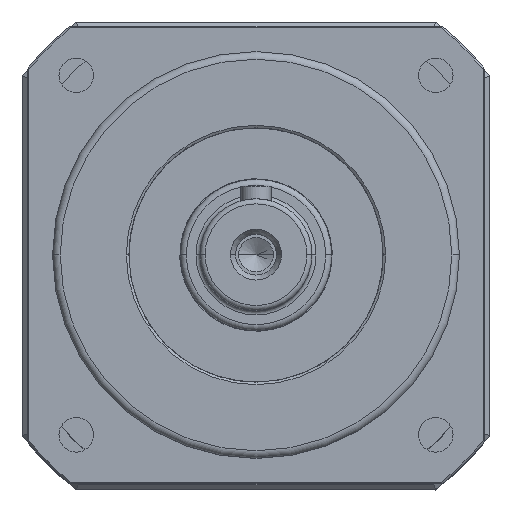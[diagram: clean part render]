
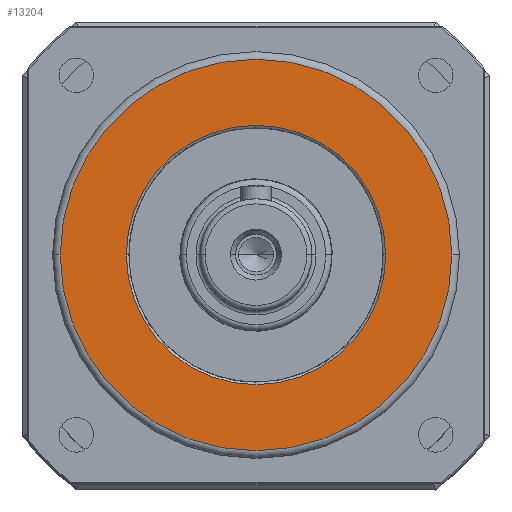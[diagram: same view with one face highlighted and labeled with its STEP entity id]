
A CAD part, top view. The second image highlights one B-rep face of the part: STEP entity #13204.
In plain terms, the highlighted planar face has unit normal (0, 0, 1).
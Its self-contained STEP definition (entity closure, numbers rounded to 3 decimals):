
#339 = ORIENTED_EDGE ( 'NONE', *, *, #5922, .T. ) ;
#341 = ORIENTED_EDGE ( 'NONE', *, *, #15233, .T. ) ;
#342 = ORIENTED_EDGE ( 'NONE', *, *, #15234, .T. ) ;
#343 = ORIENTED_EDGE ( 'NONE', *, *, #5926, .T. ) ;
#4252 = VERTEX_POINT ( 'NONE', #11822 ) ;
#4255 = VERTEX_POINT ( 'NONE', #11825 ) ;
#4275 = VERTEX_POINT ( 'NONE', #11845 ) ;
#4277 = VERTEX_POINT ( 'NONE', #11847 ) ;
#4296 = EDGE_LOOP ( 'NONE', ( #339, #341 ) ) ;
#4297 = EDGE_LOOP ( 'NONE', ( #343, #342 ) ) ;
#5922 = EDGE_CURVE ( 'NONE', #4255, #4252, #8165, .T. ) ;
#5926 = EDGE_CURVE ( 'NONE', #4277, #4275, #8167, .T. ) ;
#8165 = CIRCLE ( 'NONE', #8166, 25.5 ) ;
#8166 = AXIS2_PLACEMENT_3D ( 'NONE', #8555, #8556, #8557 ) ;
#8167 = CIRCLE ( 'NONE', #8173, 38.5 ) ;
#8173 = AXIS2_PLACEMENT_3D ( 'NONE', #8566, #8567, #8568 ) ;
#8555 = CARTESIAN_POINT ( 'NONE',  ( 0., 0., 10. ) ) ;
#8556 = DIRECTION ( 'NONE',  ( 0., 0., -1. ) ) ;
#8557 = DIRECTION ( 'NONE',  ( 1., 0., 0. ) ) ;
#8566 = CARTESIAN_POINT ( 'NONE',  ( 0., 0., 10. ) ) ;
#8567 = DIRECTION ( 'NONE',  ( 0., 0., 1. ) ) ;
#8568 = DIRECTION ( 'NONE',  ( 1., 0., 0. ) ) ;
#9181 = PLANE ( 'NONE',  #15777 ) ;
#9182 = CARTESIAN_POINT ( 'NONE',  ( 0., 0., 10. ) ) ;
#9183 = DIRECTION ( 'NONE',  ( 0., 0., 1. ) ) ;
#9184 = DIRECTION ( 'NONE',  ( 1., 0., 0. ) ) ;
#11822 = CARTESIAN_POINT ( 'NONE',  ( -25.5, 0., 10. ) ) ;
#11825 = CARTESIAN_POINT ( 'NONE',  ( 25.5, 0., 10. ) ) ;
#11845 = CARTESIAN_POINT ( 'NONE',  ( -38.5, 0., 10. ) ) ;
#11847 = CARTESIAN_POINT ( 'NONE',  ( 38.5, 0., 10. ) ) ;
#13204 = ADVANCED_FACE ( 'NONE', ( #16459, #16460 ), #9181, .T. ) ;
#14012 = CARTESIAN_POINT ( 'NONE',  ( 0., 0., 10. ) ) ;
#14013 = DIRECTION ( 'NONE',  ( 0., 0., -1. ) ) ;
#14014 = DIRECTION ( 'NONE',  ( 1., 0., 0. ) ) ;
#14015 = CARTESIAN_POINT ( 'NONE',  ( 0., 0., 10. ) ) ;
#14016 = DIRECTION ( 'NONE',  ( 0., 0., 1. ) ) ;
#14017 = DIRECTION ( 'NONE',  ( 1., 0., 0. ) ) ;
#14082 = AXIS2_PLACEMENT_3D ( 'NONE', #14012, #14013, #14014 ) ;
#14084 = CIRCLE ( 'NONE', #14086, 38.5 ) ;
#14086 = AXIS2_PLACEMENT_3D ( 'NONE', #14015, #14016, #14017 ) ;
#15233 = EDGE_CURVE ( 'NONE', #4252, #4255, #16083, .T. ) ;
#15234 = EDGE_CURVE ( 'NONE', #4275, #4277, #14084, .T. ) ;
#15777 = AXIS2_PLACEMENT_3D ( 'NONE', #9182, #9183, #9184 ) ;
#16083 = CIRCLE ( 'NONE', #14082, 25.5 ) ;
#16459 = FACE_BOUND ( 'NONE', #4296, .T. ) ;
#16460 = FACE_OUTER_BOUND ( 'NONE', #4297, .T. ) ;
